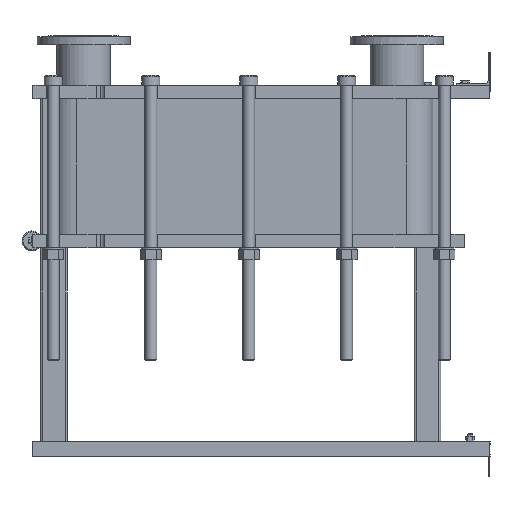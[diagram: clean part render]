
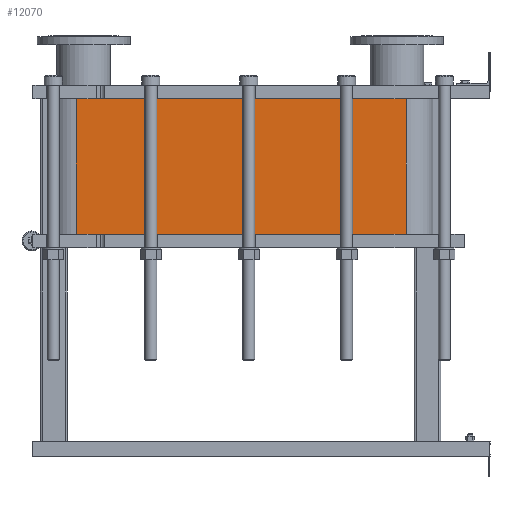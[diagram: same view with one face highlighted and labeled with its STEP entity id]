
A CAD part, left-side view. The second image highlights one B-rep face of the part: STEP entity #12070.
In plain terms, the highlighted planar face has unit normal (-1, 0, 0).
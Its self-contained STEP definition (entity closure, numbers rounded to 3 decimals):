
#1064=LINE('',#21140,#2164);
#1065=LINE('',#21144,#2165);
#1066=LINE('',#21146,#2166);
#1067=LINE('',#21147,#2167);
#2164=VECTOR('',#15790,10.);
#2165=VECTOR('',#15795,10.);
#2166=VECTOR('',#15796,10.);
#2167=VECTOR('',#15797,10.);
#3304=FACE_OUTER_BOUND('',#4091,.T.);
#4091=EDGE_LOOP('',(#9793,#9794,#9795,#9796));
#5677=VERTEX_POINT('',#21137);
#5678=VERTEX_POINT('',#21139);
#5679=VERTEX_POINT('',#21143);
#5680=VERTEX_POINT('',#21145);
#7118=EDGE_CURVE('',#5678,#5677,#1064,.T.);
#7120=EDGE_CURVE('',#5677,#5679,#1065,.T.);
#7121=EDGE_CURVE('',#5680,#5679,#1066,.T.);
#7122=EDGE_CURVE('',#5680,#5678,#1067,.T.);
#9793=ORIENTED_EDGE('',*,*,#7120,.T.);
#9794=ORIENTED_EDGE('',*,*,#7121,.F.);
#9795=ORIENTED_EDGE('',*,*,#7122,.T.);
#9796=ORIENTED_EDGE('',*,*,#7118,.T.);
#11441=PLANE('',#13191);
#12070=ADVANCED_FACE('',(#3304),#11441,.T.);
#13191=AXIS2_PLACEMENT_3D('',#21142,#15793,#15794);
#15790=DIRECTION('',(0.,0.,-1.));
#15793=DIRECTION('center_axis',(-1.,0.,0.));
#15794=DIRECTION('ref_axis',(0.,1.,0.));
#15795=DIRECTION('',(0.,-1.,0.));
#15796=DIRECTION('',(0.,0.,-1.));
#15797=DIRECTION('',(0.,1.,0.));
#21137=CARTESIAN_POINT('',(-248.152,1243.818,-407.1));
#21139=CARTESIAN_POINT('',(-248.152,1243.818,0.));
#21140=CARTESIAN_POINT('',(-248.152,1243.818,0.));
#21142=CARTESIAN_POINT('Origin',(-248.152,251.818,0.));
#21143=CARTESIAN_POINT('',(-248.152,251.818,-407.1));
#21144=CARTESIAN_POINT('',(-248.152,499.818,-407.1));
#21145=CARTESIAN_POINT('',(-248.152,251.818,0.));
#21146=CARTESIAN_POINT('',(-248.152,251.818,0.));
#21147=CARTESIAN_POINT('',(-248.152,251.818,0.));
